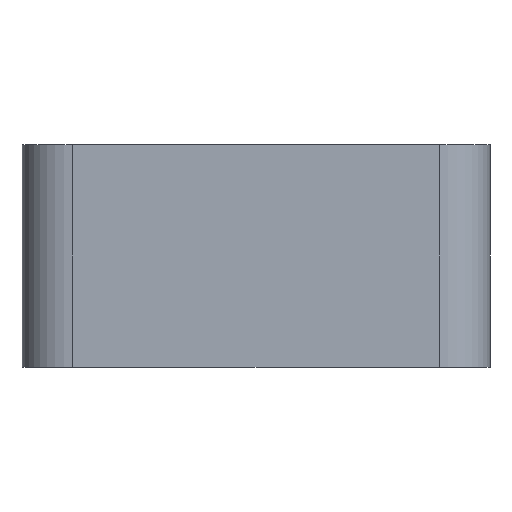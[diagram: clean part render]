
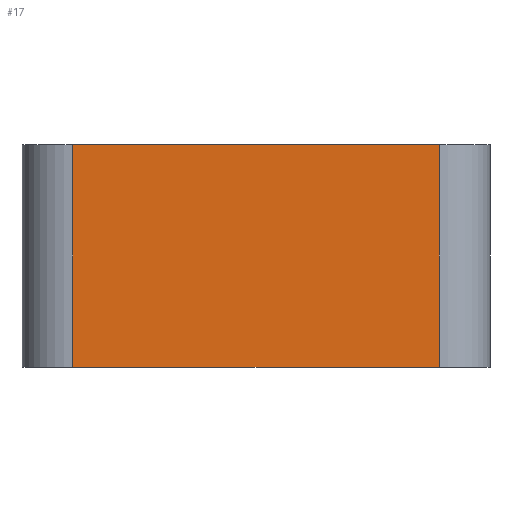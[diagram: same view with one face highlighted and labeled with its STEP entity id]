
A CAD part, front view. The second image highlights one B-rep face of the part: STEP entity #17.
In plain terms, the highlighted planar face has unit normal (0, -1, 0).
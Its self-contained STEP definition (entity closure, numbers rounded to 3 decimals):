
#17 = ADVANCED_FACE('',(#18),#32,.F.);
#18 = FACE_BOUND('',#19,.F.);
#19 = EDGE_LOOP('',(#20,#55,#83,#111));
#20 = ORIENTED_EDGE('',*,*,#21,.F.);
#21 = EDGE_CURVE('',#22,#24,#26,.T.);
#22 = VERTEX_POINT('',#23);
#23 = CARTESIAN_POINT('',(-21.,-9.3,0.));
#24 = VERTEX_POINT('',#25);
#25 = CARTESIAN_POINT('',(21.,-9.3,0.));
#26 = SURFACE_CURVE('',#27,(#31,#43),.PCURVE_S1.);
#27 = LINE('',#28,#29);
#28 = CARTESIAN_POINT('',(-26.8,-9.3,0.));
#29 = VECTOR('',#30,1.);
#30 = DIRECTION('',(1.,0.,0.));
#31 = PCURVE('',#32,#37);
#32 = PLANE('',#33);
#33 = AXIS2_PLACEMENT_3D('',#34,#35,#36);
#34 = CARTESIAN_POINT('',(-26.8,-9.3,0.));
#35 = DIRECTION('',(0.,1.,0.));
#36 = DIRECTION('',(1.,0.,0.));
#37 = DEFINITIONAL_REPRESENTATION('',(#38),#42);
#38 = LINE('',#39,#40);
#39 = CARTESIAN_POINT('',(0.,0.));
#40 = VECTOR('',#41,1.);
#41 = DIRECTION('',(1.,0.));
#42 = ( GEOMETRIC_REPRESENTATION_CONTEXT(2) 
PARAMETRIC_REPRESENTATION_CONTEXT() REPRESENTATION_CONTEXT('2D SPACE',''
  ) );
#43 = PCURVE('',#44,#49);
#44 = PLANE('',#45);
#45 = AXIS2_PLACEMENT_3D('',#46,#47,#48);
#46 = CARTESIAN_POINT('',(0.,0.,0.));
#47 = DIRECTION('',(0.,0.,1.));
#48 = DIRECTION('',(1.,0.,-0.));
#49 = DEFINITIONAL_REPRESENTATION('',(#50),#54);
#50 = LINE('',#51,#52);
#51 = CARTESIAN_POINT('',(-26.8,-9.3));
#52 = VECTOR('',#53,1.);
#53 = DIRECTION('',(1.,0.));
#54 = ( GEOMETRIC_REPRESENTATION_CONTEXT(2) 
PARAMETRIC_REPRESENTATION_CONTEXT() REPRESENTATION_CONTEXT('2D SPACE',''
  ) );
#55 = ORIENTED_EDGE('',*,*,#56,.T.);
#56 = EDGE_CURVE('',#22,#57,#59,.T.);
#57 = VERTEX_POINT('',#58);
#58 = CARTESIAN_POINT('',(-21.,-9.3,25.5));
#59 = SURFACE_CURVE('',#60,(#64,#71),.PCURVE_S1.);
#60 = LINE('',#61,#62);
#61 = CARTESIAN_POINT('',(-21.,-9.3,0.));
#62 = VECTOR('',#63,1.);
#63 = DIRECTION('',(0.,0.,1.));
#64 = PCURVE('',#32,#65);
#65 = DEFINITIONAL_REPRESENTATION('',(#66),#70);
#66 = LINE('',#67,#68);
#67 = CARTESIAN_POINT('',(5.8,0.));
#68 = VECTOR('',#69,1.);
#69 = DIRECTION('',(0.,-1.));
#70 = ( GEOMETRIC_REPRESENTATION_CONTEXT(2) 
PARAMETRIC_REPRESENTATION_CONTEXT() REPRESENTATION_CONTEXT('2D SPACE',''
  ) );
#71 = PCURVE('',#72,#77);
#72 = CYLINDRICAL_SURFACE('',#73,5.8);
#73 = AXIS2_PLACEMENT_3D('',#74,#75,#76);
#74 = CARTESIAN_POINT('',(-21.,-3.5,0.));
#75 = DIRECTION('',(0.,0.,1.));
#76 = DIRECTION('',(0.,-1.,0.));
#77 = DEFINITIONAL_REPRESENTATION('',(#78),#82);
#78 = LINE('',#79,#80);
#79 = CARTESIAN_POINT('',(-0.,0.));
#80 = VECTOR('',#81,1.);
#81 = DIRECTION('',(-0.,1.));
#82 = ( GEOMETRIC_REPRESENTATION_CONTEXT(2) 
PARAMETRIC_REPRESENTATION_CONTEXT() REPRESENTATION_CONTEXT('2D SPACE',''
  ) );
#83 = ORIENTED_EDGE('',*,*,#84,.T.);
#84 = EDGE_CURVE('',#57,#85,#87,.T.);
#85 = VERTEX_POINT('',#86);
#86 = CARTESIAN_POINT('',(21.,-9.3,25.5));
#87 = SURFACE_CURVE('',#88,(#92,#99),.PCURVE_S1.);
#88 = LINE('',#89,#90);
#89 = CARTESIAN_POINT('',(-26.8,-9.3,25.5));
#90 = VECTOR('',#91,1.);
#91 = DIRECTION('',(1.,0.,0.));
#92 = PCURVE('',#32,#93);
#93 = DEFINITIONAL_REPRESENTATION('',(#94),#98);
#94 = LINE('',#95,#96);
#95 = CARTESIAN_POINT('',(0.,-25.5));
#96 = VECTOR('',#97,1.);
#97 = DIRECTION('',(1.,0.));
#98 = ( GEOMETRIC_REPRESENTATION_CONTEXT(2) 
PARAMETRIC_REPRESENTATION_CONTEXT() REPRESENTATION_CONTEXT('2D SPACE',''
  ) );
#99 = PCURVE('',#100,#105);
#100 = PLANE('',#101);
#101 = AXIS2_PLACEMENT_3D('',#102,#103,#104);
#102 = CARTESIAN_POINT('',(0.,0.,25.5)
  );
#103 = DIRECTION('',(0.,0.,1.));
#104 = DIRECTION('',(1.,0.,-0.));
#105 = DEFINITIONAL_REPRESENTATION('',(#106),#110);
#106 = LINE('',#107,#108);
#107 = CARTESIAN_POINT('',(-26.8,-9.3));
#108 = VECTOR('',#109,1.);
#109 = DIRECTION('',(1.,0.));
#110 = ( GEOMETRIC_REPRESENTATION_CONTEXT(2) 
PARAMETRIC_REPRESENTATION_CONTEXT() REPRESENTATION_CONTEXT('2D SPACE',''
  ) );
#111 = ORIENTED_EDGE('',*,*,#112,.F.);
#112 = EDGE_CURVE('',#24,#85,#113,.T.);
#113 = SURFACE_CURVE('',#114,(#118,#125),.PCURVE_S1.);
#114 = LINE('',#115,#116);
#115 = CARTESIAN_POINT('',(21.,-9.3,0.));
#116 = VECTOR('',#117,1.);
#117 = DIRECTION('',(0.,0.,1.));
#118 = PCURVE('',#32,#119);
#119 = DEFINITIONAL_REPRESENTATION('',(#120),#124);
#120 = LINE('',#121,#122);
#121 = CARTESIAN_POINT('',(47.8,0.));
#122 = VECTOR('',#123,1.);
#123 = DIRECTION('',(0.,-1.));
#124 = ( GEOMETRIC_REPRESENTATION_CONTEXT(2) 
PARAMETRIC_REPRESENTATION_CONTEXT() REPRESENTATION_CONTEXT('2D SPACE',''
  ) );
#125 = PCURVE('',#126,#131);
#126 = CYLINDRICAL_SURFACE('',#127,5.8);
#127 = AXIS2_PLACEMENT_3D('',#128,#129,#130);
#128 = CARTESIAN_POINT('',(21.,-3.5,0.));
#129 = DIRECTION('',(0.,0.,1.));
#130 = DIRECTION('',(0.,-1.,0.));
#131 = DEFINITIONAL_REPRESENTATION('',(#132),#136);
#132 = LINE('',#133,#134);
#133 = CARTESIAN_POINT('',(0.,0.));
#134 = VECTOR('',#135,1.);
#135 = DIRECTION('',(0.,1.));
#136 = ( GEOMETRIC_REPRESENTATION_CONTEXT(2) 
PARAMETRIC_REPRESENTATION_CONTEXT() REPRESENTATION_CONTEXT('2D SPACE',''
  ) );
